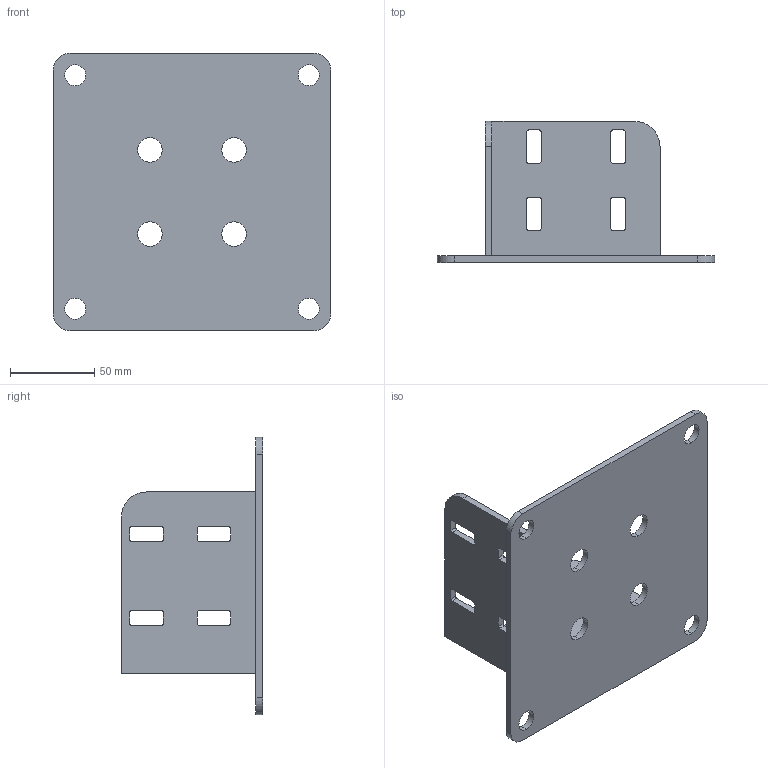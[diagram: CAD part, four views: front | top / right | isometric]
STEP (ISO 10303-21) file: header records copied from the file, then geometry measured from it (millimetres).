
FILE_DESCRIPTION (( 'STEP AP214' ), '1' );
FILE_NAME ('ñáîðêà.STEP', '2017-04-25T11:59:22', ( '' ), ( '' ), 'SwSTEP 2.0', 'SolidWorks 2014', '' );
FILE_SCHEMA (( 'AUTOMOTIVE_DESIGN' ));
Length unit declared in the file: millimetre
Products named in the file (4): 鸙_﨩2; 鸙_﨩1; îïîðà; 鼁闉罻
Assembly tree (3 placements, depth 2):
  鼁闉罻
    îïîðà
    鸙_﨩1
    鸙_﨩2
Bounding box: 165 x 84 x 165 mm (x, y, z)
Volume: 164722.9 mm3; surface area: 90942.4 mm2
Topology: 3 solids, 3 shells, 104 faces, 294 edges, 196 vertices
Faces by surface type: cylinder 54, plane 50
Entity records: 3624 total; most frequent: DIRECTION 622, CARTESIAN_POINT 600, ORIENTED_EDGE 588, EDGE_CURVE 294, AXIS2_PLACEMENT_3D 218, VERTEX_POINT 196, VECTOR 186, LINE 186
